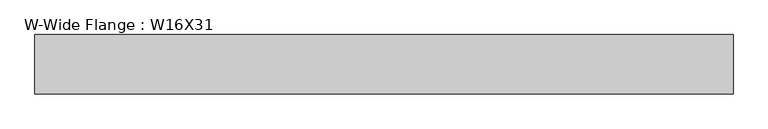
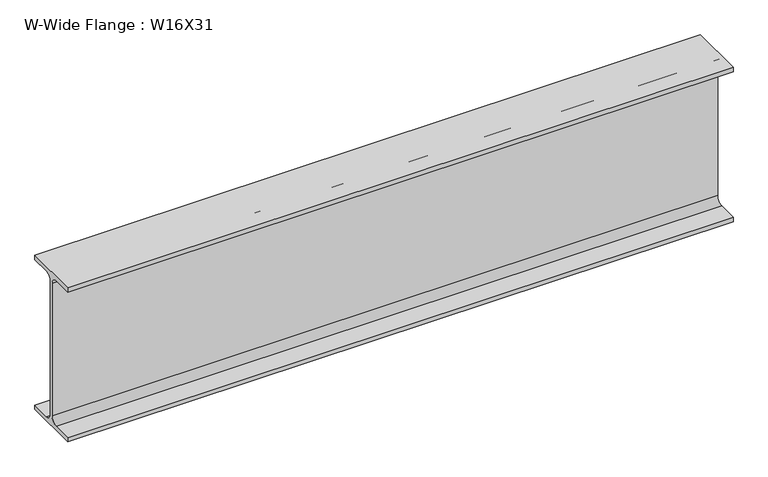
"""IFC4 building model written with IfcOpenShell, lengths in millimetres: beam geometry, W-Wide Flange : W16X31."""

from ifc_helpers import new_model, si_unit, point, frame, frame_2d, origin, place, context, project, spatial, polyline, circle_curve, trimmed, segment, composite_curve, outline, extrude, source, transform, mapped, element, save


def w_wide_flange_w16x31_e0288e10(model_context):
    return source(origin(), model_context, "Body", "SweptSolid", [
        extrude(outline(composite_curve([segment(polyline([(70.231, -190.754), (70.231, -201.93), (-70.231, -201.93), (-70.231, -190.754), (-20.8915, -190.754)]), True, "CONTINUOUS"), segment(trimmed(circle_curve(frame_2d((-20.8915, -173.355)), 17.399), [point((-20.8915, -190.754))], [point((-3.4925, -173.355))], True, "CARTESIAN"), True, "CONTINUOUS"), segment(polyline([(-3.4925, -173.355), (-3.4925, 173.355)]), True, "CONTINUOUS"), segment(trimmed(circle_curve(frame_2d((-20.8915, 173.355)), 17.399), [point((-3.4925, 173.355))], [point((-20.8915, 190.754))], True, "CARTESIAN"), True, "CONTINUOUS"), segment(polyline([(-20.8915, 190.754), (-70.231, 190.754), (-70.231, 201.93), (70.231, 201.93), (70.231, 190.754), (20.8915, 190.754)]), True, "CONTINUOUS"), segment(trimmed(circle_curve(frame_2d((20.8915, 173.355)), 17.399), [point((20.8915, 190.754))], [point((3.4925, 173.355))], True, "CARTESIAN"), True, "CONTINUOUS"), segment(polyline([(3.4925, 173.355), (3.4925, -173.355)]), True, "CONTINUOUS"), segment(trimmed(circle_curve(frame_2d((20.8915, -173.355)), 17.399), [point((3.4925, -173.355))], [point((20.8915, -190.754))], True, "CARTESIAN"), True, "CONTINUOUS"), segment(polyline([(20.8915, -190.754), (70.231, -190.754)]), True, "CONTINUOUS")], self_intersect=False)), frame((-808.6840266, 0.0, 0.0), z_axis=(1.0, 0.0, 0.0), x_axis=(0.0, 1.0, 0.0)), (0.0, 0.0, 1.0), 1649.3265072),
    ])


if __name__ == "__main__":
    model = new_model("IFC4")
    model_context = context("Model", 3, world=origin())
    ifc_project = project(units=[si_unit("LENGTHUNIT", "METRE", prefix="MILLI")], contexts=[model_context])
    site = spatial("IfcSite", under=ifc_project)
    building = spatial("IfcBuilding", under=site)
    placement = place(None, origin())
    w_wide_flange_w16x31_shape = w_wide_flange_w16x31_e0288e10(model_context)
    element("IfcBeam", 1, ObjectType="W-Wide Flange : W16X31", at=placement, inside=building, context=model_context, shape_type="MappedRepresentation", body=[
        mapped(w_wide_flange_w16x31_shape, transform((0.0, 0.0, 0.0), x_axis=(1.0, 0.0, 0.0), y_axis=(0.0, 1.0, 0.0), z_axis=(0.0, 0.0, 1.0))),
    ])
    save(model, "model.ifc")
